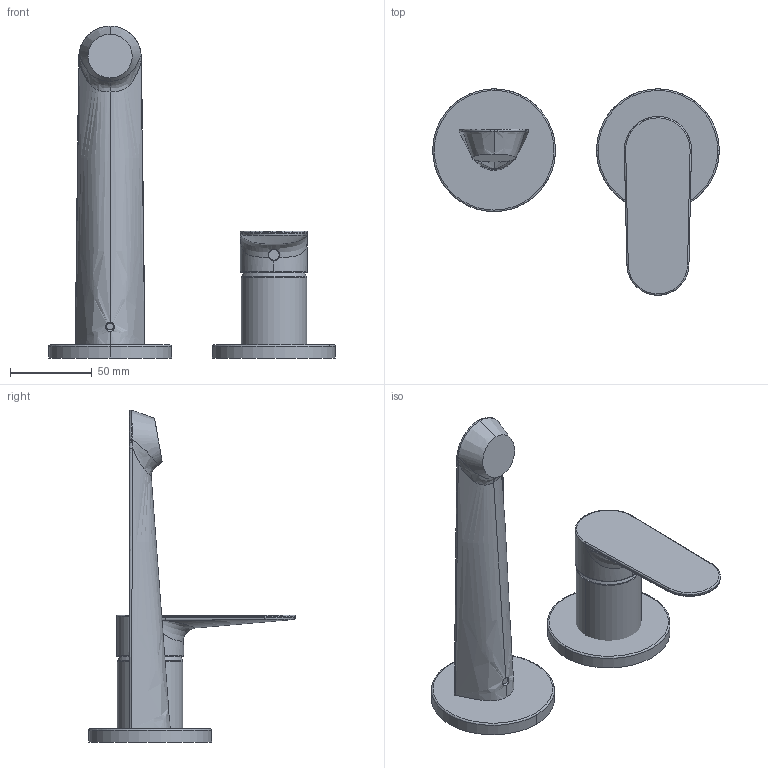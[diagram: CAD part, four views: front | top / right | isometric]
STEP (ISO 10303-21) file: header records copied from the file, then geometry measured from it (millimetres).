
FILE_DESCRIPTION (( 'STEP AP203' ), '1' );
FILE_NAME ('37802107(2025).STEP', '2025-02-19T08:44:38', ( '' ), ( '' ), 'SwSTEP 2.0', 'SolidWorks 2024', '' );
FILE_SCHEMA (( 'CONFIG_CONTROL_DESIGN' ));
Length unit declared in the file: millimetre
Products named in the file (1): 37802107(2025)
Bounding box: 175 x 126.09 x 202.68 mm (x, y, z)
Volume: 293426.4 mm3; surface area: 64517.6 mm2
Topology: 6 solids, 6 shells, 93 faces, 212 edges, 133 vertices
Faces by surface type: bspline 53, plane 17, cylinder 15, cone 8
Entity records: 10200 total; most frequent: CARTESIAN_POINT 8469, ORIENTED_EDGE 424, EDGE_CURVE 212, DIRECTION 205, VERTEX_POINT 133, B_SPLINE_CURVE_WITH_KNOTS 114, EDGE_LOOP 95, ADVANCED_FACE 93
